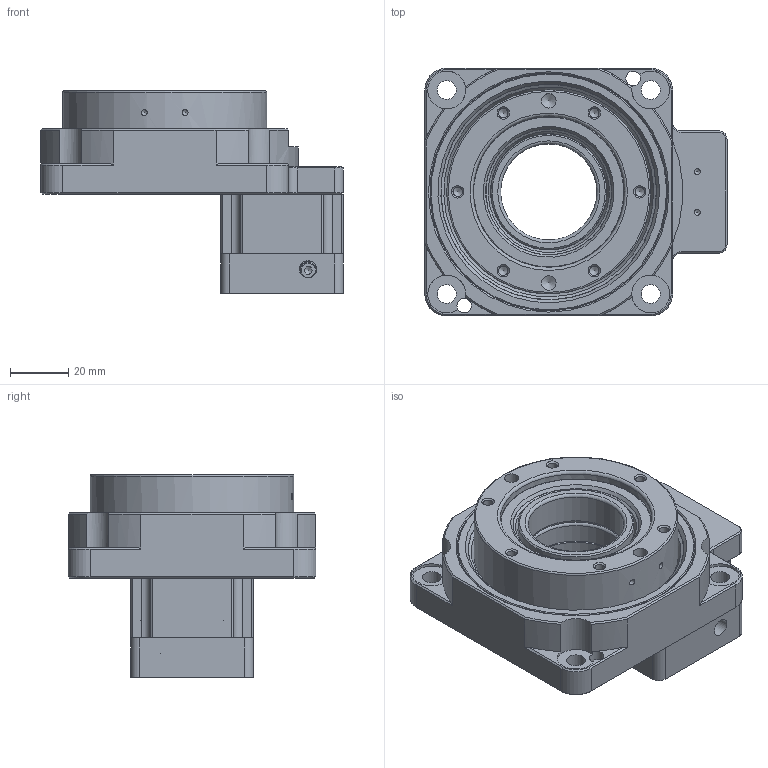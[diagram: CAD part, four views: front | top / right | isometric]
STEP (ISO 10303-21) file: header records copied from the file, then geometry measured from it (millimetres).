
FILE_DESCRIPTION((''),'2;1');
FILE_NAME('D:\유성\액추에이터\작성도면\액추에이터 3d\85\SHA085SV010 (1 STAGE-A TYPE).stp','2014-05-22T13:48:40',('nagyu'),(''),'Autodesk Inventor 2013','Autodesk Inventor 2013','');
FILE_SCHEMA(('AUTOMOTIVE_DESIGN { 1 0 10303 214 1 1 1 1 }'));
Length unit declared in the file: millimetre
Products named in the file (1): SHA085SV010 (1 STAGE-A TYPE)_Shrinkwrap_1
Bounding box: 103.72 x 85 x 69.5 mm (x, y, z)
Volume: 180743.1 mm3; surface area: 81430.7 mm2
Topology: 3 solids, 26 shells, 1663 faces, 4474 edges, 2918 vertices
Faces by surface type: bspline 950, plane 292, cylinder 218, cone 155, torus 48
Full cylindrical faces by diameter (mm): 1.5 x2, 2.013 x4, 2.459 x18, 3 x12, 3.242 x7, 3.4 x15, 3.5 x4, 4 x4, 4.9 x1, 5 x6, 5.022 x1, 5.5 x11, 6 x19, 6.5 x4, 8 x1, 8.2 x1, 9.5 x1, 13 x2, 13.4 x1, 14.5 x1, 14.9 x1, 15 x2, 17 x1, 18 x1, 21 x1, 23.6 x1, 25 x3, 28 x2, 29 x1, 29.5 x2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
Entity records: 66267 total; most frequent: CARTESIAN_POINT 30288, ORIENTED_EDGE 8128, DIRECTION 5065, EDGE_CURVE 4064, VERTEX_POINT 2818, AXIS2_PLACEMENT_3D 2326, EDGE_LOOP 2087, B_SPLINE_CURVE_WITH_KNOTS 1955
